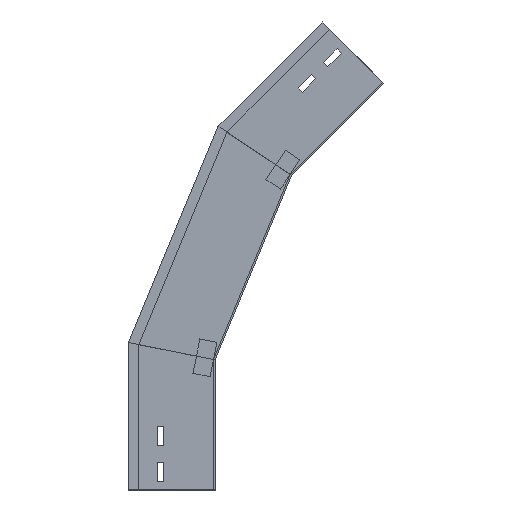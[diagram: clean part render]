
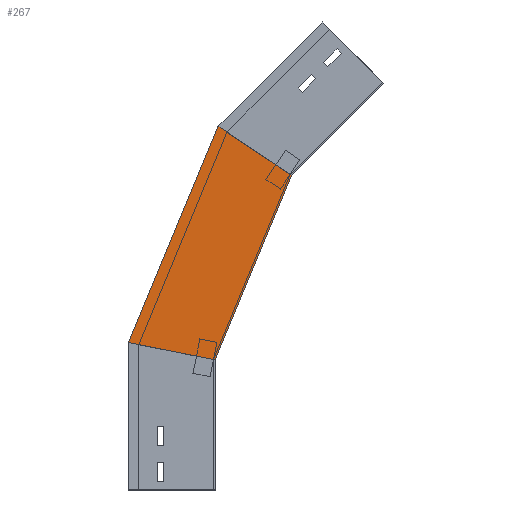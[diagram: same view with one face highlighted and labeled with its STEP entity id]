
A CAD part, left-side view. The second image highlights one B-rep face of the part: STEP entity #267.
In plain terms, the highlighted planar face has unit normal (-1, 0, 0) as drawn and (1, 0, 0) by its records, which use the part's own axes.
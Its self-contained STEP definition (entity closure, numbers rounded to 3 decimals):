
#46 = PLANE ( 'NONE',  #854 ) ;
#52 = CARTESIAN_POINT ( 'NONE',  ( 0., 0., 150. ) ) ;
#63 = DIRECTION ( 'NONE',  ( 0., 0., -1. ) ) ;
#119 = EDGE_CURVE ( 'NONE', #1444, #1148, #195, .T. ) ;
#158 = EDGE_CURVE ( 'NONE', #1239, #761, #1272, .T. ) ;
#168 = CARTESIAN_POINT ( 'NONE',  ( 0., 8.412, 129.693 ) ) ;
#169 = ORIENTED_EDGE ( 'NONE', *, *, #158, .F. ) ;
#195 = LINE ( 'NONE', #648, #1375 ) ;
#219 = LINE ( 'NONE', #331, #855 ) ;
#267 = ADVANCED_FACE ( 'NONE', ( #1085 ), #46, .T. ) ;
#275 = CARTESIAN_POINT ( 'NONE',  ( 0., -88.017, 362.492 ) ) ;
#331 = CARTESIAN_POINT ( 'NONE',  ( 0., -128.891, 335.181 ) ) ;
#347 = VECTOR ( 'NONE', #1355, 1000. ) ;
#495 = LINE ( 'NONE', #847, #930 ) ;
#535 = CARTESIAN_POINT ( 'NONE',  ( 0., 8.412, 129.693 ) ) ;
#623 = DIRECTION ( 'NONE',  ( 1., 0., 0. ) ) ;
#648 = CARTESIAN_POINT ( 'NONE',  ( 0., 100.799, 167.961 ) ) ;
#761 = VERTEX_POINT ( 'NONE', #275 ) ;
#847 = CARTESIAN_POINT ( 'NONE',  ( 0., -28.701, 144.291 ) ) ;
#854 = AXIS2_PLACEMENT_3D ( 'NONE', #168, #623, #63 ) ;
#855 = VECTOR ( 'NONE', #1471, 1000. ) ;
#873 = ORIENTED_EDGE ( 'NONE', *, *, #1391, .T. ) ;
#911 = CARTESIAN_POINT ( 'NONE',  ( 0., 100., 169.891 ) ) ;
#930 = VECTOR ( 'NONE', #1088, 1000. ) ;
#945 = ORIENTED_EDGE ( 'NONE', *, *, #1371, .F. ) ;
#1050 = ORIENTED_EDGE ( 'NONE', *, *, #119, .T. ) ;
#1085 = FACE_OUTER_BOUND ( 'NONE', #1319, .T. ) ;
#1088 = DIRECTION ( 'NONE',  ( 0., -0.981, -0.195 ) ) ;
#1148 = VERTEX_POINT ( 'NONE', #1309 ) ;
#1239 = VERTEX_POINT ( 'NONE', #52 ) ;
#1272 = LINE ( 'NONE', #535, #347 ) ;
#1309 = CARTESIAN_POINT ( 'NONE',  ( 0., -3.241, 419.138 ) ) ;
#1319 = EDGE_LOOP ( 'NONE', ( #1050, #873, #169, #945 ) ) ;
#1355 = DIRECTION ( 'NONE',  ( 0., -0.383, 0.924 ) ) ;
#1371 = EDGE_CURVE ( 'NONE', #1444, #1239, #495, .T. ) ;
#1375 = VECTOR ( 'NONE', #1475, 1000. ) ;
#1391 = EDGE_CURVE ( 'NONE', #1148, #761, #219, .T. ) ;
#1444 = VERTEX_POINT ( 'NONE', #911 ) ;
#1471 = DIRECTION ( 'NONE',  ( 0., -0.831, -0.556 ) ) ;
#1475 = DIRECTION ( 'NONE',  ( 0., -0.383, 0.924 ) ) ;
